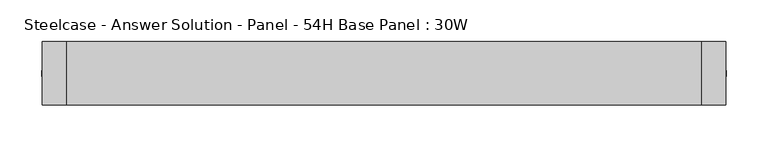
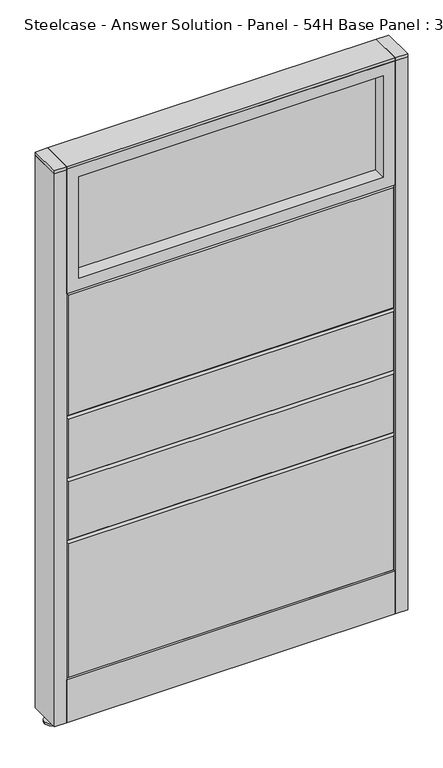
"""IFC4 building model written with IfcOpenShell, lengths in millimetres: furniture geometry, Steelcase - Answer Solution - Panel - 54H Base Panel : 30W."""

from ifc_helpers import new_model, si_unit, point, frame, frame_2d, origin, place, context, project, spatial, polyline, circle_curve, trimmed, segment, composite_curve, outline, extrude, faceted_brep, source, transform, mapped, element, save


def steelcase_answer_solution_panel_54h_base_panel_30w_bf50fbc8(model_context):
    return source(origin(), model_context, "Body", "SolidModel", [
        extrude(outline(composite_curve([segment(trimmed(circle_curve(frame_2d((395.224, 0.0320214)), 5.08), [point((400.304, 0.0320214))], [point((390.144, 0.0320214))], False, "CARTESIAN"), True, "CONTINUOUS"), segment(trimmed(circle_curve(frame_2d((395.224, 0.0320214)), 5.08), [point((390.144, 0.0320214))], [point((400.304, 0.0320214))], False, "CARTESIAN"), True, "CONTINUOUS")], self_intersect=False)), frame((0.0, 0.0, 5.0799671), z_axis=(0.0, 0.0, 1.0), x_axis=(1.0, 0.0, 0.0)), (0.0, 0.0, 1.0), 10.414),
        extrude(outline(composite_curve([segment(trimmed(circle_curve(frame_2d((395.224, 0.0320214)), 15.24), [point((410.464, 0.0320214))], [point((379.984, 0.0320214))], False, "CARTESIAN"), True, "CONTINUOUS"), segment(trimmed(circle_curve(frame_2d((395.224, 0.0320214)), 15.24), [point((379.984, 0.0320214))], [point((410.464, 0.0320214))], False, "CARTESIAN"), True, "CONTINUOUS")], self_intersect=False)), frame((0.0, 0.0, -3.29e-05), z_axis=(0.0, 0.0, 1.0), x_axis=(1.0, 0.0, 0.0)), (0.0, 0.0, 1.0), 5.08),
        extrude(outline(polyline([(409.575, 38.1320408), (409.575, -38.0679592), (381.0, -38.0679592), (381.0, 38.1320408), (409.575, 38.1320408)])), frame((0.0, 0.0, 1370.6348), z_axis=(0.0, 0.0, 1.0), x_axis=(1.0, 0.0, 0.0)), (0.0, 0.0, 1.0), 7.3151671),
        extrude(outline(polyline([(409.575, 38.1320408), (409.575, -38.0679592), (381.0, -38.0679592), (381.0, 38.1320408), (409.575, 38.1320408)])), frame((0.0, 0.0, 15.4939671), z_axis=(0.0, 0.0, 1.0), x_axis=(1.0, 0.0, 0.0)), (0.0, 0.0, 1.0), 1355.1408329),
        extrude(outline(composite_curve([segment(trimmed(circle_curve(frame_2d((-395.224, 0.0320214)), 5.08), [point((-400.304, 0.0320214))], [point((-390.144, 0.0320214))], False, "CARTESIAN"), True, "CONTINUOUS"), segment(trimmed(circle_curve(frame_2d((-395.224, 0.0320214)), 5.08), [point((-390.144, 0.0320214))], [point((-400.304, 0.0320214))], False, "CARTESIAN"), True, "CONTINUOUS")], self_intersect=False)), frame((0.0, 0.0, 5.0799671), z_axis=(0.0, 0.0, 1.0), x_axis=(1.0, 0.0, 0.0)), (0.0, 0.0, 1.0), 10.414),
        extrude(outline(composite_curve([segment(trimmed(circle_curve(frame_2d((-395.224, 0.0320214)), 15.24), [point((-410.464, 0.0320214))], [point((-379.984, 0.0320214))], False, "CARTESIAN"), True, "CONTINUOUS"), segment(trimmed(circle_curve(frame_2d((-395.224, 0.0320214)), 15.24), [point((-379.984, 0.0320214))], [point((-410.464, 0.0320214))], False, "CARTESIAN"), True, "CONTINUOUS")], self_intersect=False)), frame((0.0, 0.0, -3.29e-05), z_axis=(0.0, 0.0, 1.0), x_axis=(1.0, 0.0, 0.0)), (0.0, 0.0, 1.0), 5.08),
        extrude(outline(polyline([(-409.575, 38.1320408), (-381.0, 38.1320408), (-381.0, -38.0679592), (-409.575, -38.0679592), (-409.575, 38.1320408)])), frame((0.0, 0.0, 1370.6348), z_axis=(0.0, 0.0, 1.0), x_axis=(1.0, 0.0, 0.0)), (0.0, 0.0, 1.0), 7.3151671),
        extrude(outline(polyline([(-409.575, 38.1320408), (-381.0, 38.1320408), (-381.0, -38.0679592), (-409.575, -38.0679592), (-409.575, 38.1320408)])), frame((0.0, 0.0, 15.4939671), z_axis=(0.0, 0.0, 1.0), x_axis=(1.0, 0.0, 0.0)), (0.0, 0.0, 1.0), 1355.1408329),
        extrude(outline(polyline([(-353.06, 6.346049), (353.06, 6.346049), (353.06, -6.353951), (-353.06, -6.353951), (-353.06, 6.346049)])), frame((0.0, 0.0, 1094.74), z_axis=(0.0, 0.0, 1.0), x_axis=(1.0, 0.0, 0.0)), (0.0, 0.0, 1.0), 248.92),
        extrude(outline(polyline([(1371.6, -381.0), (1066.8, -381.0), (1066.8, 381.0), (1371.6, 381.0), (1371.6, -381.0)]), holes=[polyline([(1343.66, -353.06), (1343.66, 353.06), (1094.74, 353.06), (1094.74, -353.06), (1343.66, -353.06)])]), frame((0.0, -38.103951, 0.0), z_axis=(0.0, 1.0, 0.0), x_axis=(0.0, 0.0, 1.0)), (0.0, 0.0, 1.0), 76.2),
        faceted_brep([(-376.174, 38.1635011, 1061.974), (376.174, 38.1635011, 1061.974), (376.174, 38.1635011, 766.826), (-376.174, 38.1635011, 766.826), (-381.0, 33.3375011, 1066.8), (-381.0, 33.3375011, 762.0), (381.0, 33.3375011, 762.0), (381.0, 33.3375011, 1066.8)], [[[0, 1, 2, 3]], [[4, 5, 6, 7]], [[4, 7, 1, 0]], [[7, 6, 2, 1]], [[6, 5, 3, 2]], [[5, 4, 0, 3]]]),
        faceted_brep([(-376.174, 38.1635011, 757.174), (376.174, 38.1635011, 757.174), (376.174, 38.1635011, 614.426), (-376.174, 38.1635011, 614.426), (-381.0, 33.3375011, 762.0), (-381.0, 33.3375011, 609.6), (381.0, 33.3375011, 609.6), (381.0, 33.3375011, 762.0)], [[[0, 1, 2, 3]], [[4, 5, 6, 7]], [[4, 7, 1, 0]], [[7, 6, 2, 1]], [[6, 5, 3, 2]], [[5, 4, 0, 3]]]),
        faceted_brep([(-376.174, 38.1635011, 604.774), (376.174, 38.1635011, 604.774), (376.174, 38.1635011, 462.026), (-376.174, 38.1635011, 462.026), (-381.0, 33.3375011, 609.6), (-381.0, 33.3375011, 457.2), (381.0, 33.3375011, 457.2), (381.0, 33.3375011, 609.6)], [[[0, 1, 2, 3]], [[4, 5, 6, 7]], [[4, 7, 1, 0]], [[7, 6, 2, 1]], [[6, 5, 3, 2]], [[5, 4, 0, 3]]]),
        faceted_brep([(-376.174, 38.1635011, 452.374), (376.174, 38.1635011, 452.374), (376.174, 38.1635011, 125.476), (-376.174, 38.1635011, 125.476), (-381.0, 33.3375011, 457.2), (-381.0, 33.3375011, 120.65), (381.0, 33.3375011, 120.65), (381.0, 33.3375011, 457.2)], [[[0, 1, 2, 3]], [[4, 5, 6, 7]], [[4, 7, 1, 0]], [[7, 6, 2, 1]], [[6, 5, 3, 2]], [[5, 4, 0, 3]]]),
        extrude(outline(polyline([(353.06, -6.346049), (-353.06, -6.346049), (-353.06, 6.353951), (353.06, 6.353951), (353.06, -6.346049)])), frame((0.0, 0.0, 1094.74), z_axis=(0.0, 0.0, 1.0), x_axis=(1.0, 0.0, 0.0)), (0.0, 0.0, 1.0), 248.92),
        extrude(outline(polyline([(1371.6, 381.0), (1371.6, -381.0), (1066.8, -381.0), (1066.8, 381.0), (1371.6, 381.0)]), holes=[polyline([(1343.66, 353.06), (1094.74, 353.06), (1094.74, -353.06), (1343.66, -353.06), (1343.66, 353.06)])]), frame((0.0, -38.096049, 0.0), z_axis=(0.0, 1.0, 0.0), x_axis=(0.0, 0.0, 1.0)), (0.0, 0.0, 1.0), 76.2),
        faceted_brep([(376.174, -38.1635011, 1061.974), (-376.174, -38.1635011, 1061.974), (-376.174, -38.1635011, 766.826), (376.174, -38.1635011, 766.826), (381.0, -33.3375011, 1066.8), (381.0, -33.3375011, 762.0), (-381.0, -33.3375011, 762.0), (-381.0, -33.3375011, 1066.8)], [[[0, 1, 2, 3]], [[4, 5, 6, 7]], [[4, 7, 1, 0]], [[7, 6, 2, 1]], [[6, 5, 3, 2]], [[5, 4, 0, 3]]]),
        faceted_brep([(376.174, -38.1635011, 757.174), (-376.174, -38.1635011, 757.174), (-376.174, -38.1635011, 614.426), (376.174, -38.1635011, 614.426), (381.0, -33.3375011, 762.0), (381.0, -33.3375011, 609.6), (-381.0, -33.3375011, 609.6), (-381.0, -33.3375011, 762.0)], [[[0, 1, 2, 3]], [[4, 5, 6, 7]], [[4, 7, 1, 0]], [[7, 6, 2, 1]], [[6, 5, 3, 2]], [[5, 4, 0, 3]]]),
        faceted_brep([(376.174, -38.1635011, 604.774), (-376.174, -38.1635011, 604.774), (-376.174, -38.1635011, 462.026), (376.174, -38.1635011, 462.026), (381.0, -33.3375011, 609.6), (381.0, -33.3375011, 457.2), (-381.0, -33.3375011, 457.2), (-381.0, -33.3375011, 609.6)], [[[0, 1, 2, 3]], [[4, 5, 6, 7]], [[4, 7, 1, 0]], [[7, 6, 2, 1]], [[6, 5, 3, 2]], [[5, 4, 0, 3]]]),
        faceted_brep([(376.174, -38.1635011, 452.374), (-376.174, -38.1635011, 452.374), (-376.174, -38.1635011, 125.476), (376.174, -38.1635011, 125.476), (381.0, -33.3375011, 457.2), (381.0, -33.3375011, 120.65), (-381.0, -33.3375011, 120.65), (-381.0, -33.3375011, 457.2)], [[[0, 1, 2, 3]], [[4, 5, 6, 7]], [[4, 7, 1, 0]], [[7, 6, 2, 1]], [[6, 5, 3, 2]], [[5, 4, 0, 3]]]),
        extrude(outline(polyline([(381.0, 38.1000194), (381.0, -38.1000194), (-381.0, -38.1000194), (-381.0, 38.1000194), (381.0, 38.1000194)])), frame((0.0, 0.0, 1371.6), z_axis=(0.0, 0.0, 1.0), x_axis=(1.0, 0.0, 0.0)), (0.0, 0.0, 1.0), 6.35),
        extrude(outline(polyline([(25.4000011, 119.8575157), (25.4000011, 120.65), (38.1000194, 120.65), (38.1000194, 15.494), (37.3075215, 15.494), (37.3075215, 119.8575157), (25.4000011, 119.8575157)])), frame((-381.0, 0.0, 0.0), z_axis=(1.0, 0.0, 0.0), x_axis=(0.0, 1.0, 0.0)), (0.0, 0.0, 1.0), 762.0),
        extrude(outline(polyline([(-25.4000011, 119.8575157), (-37.3075215, 119.8575157), (-37.3075215, 15.494), (-38.1000194, 15.494), (-38.1000194, 120.65), (-25.4000011, 120.65), (-25.4000011, 119.8575157)])), frame((-381.0, 0.0, 0.0), z_axis=(1.0, 0.0, 0.0), x_axis=(0.0, 1.0, 0.0)), (0.0, 0.0, 1.0), 762.0),
    ])


if __name__ == "__main__":
    model = new_model("IFC4")
    model_context = context("Model", 3, world=origin())
    ifc_project = project(units=[si_unit("LENGTHUNIT", "METRE", prefix="MILLI")], contexts=[model_context])
    site = spatial("IfcSite", under=ifc_project)
    building = spatial("IfcBuilding", under=site)
    placement = place(None, origin())
    steelcase_answer_solution_panel_54h_base_panel_30w_shape = steelcase_answer_solution_panel_54h_base_panel_30w_bf50fbc8(model_context)
    element("IfcFurniture", 1, ObjectType="Steelcase - Answer Solution - Panel - 54H Base Panel : 30W", at=placement, inside=building, context=model_context, shape_type="MappedRepresentation", body=[
        mapped(steelcase_answer_solution_panel_54h_base_panel_30w_shape, transform((0.0, 0.0, 0.0), x_axis=(1.0, 0.0, 0.0), y_axis=(0.0, 1.0, 0.0), z_axis=(0.0, 0.0, 1.0))),
    ])
    save(model, "model.ifc")
